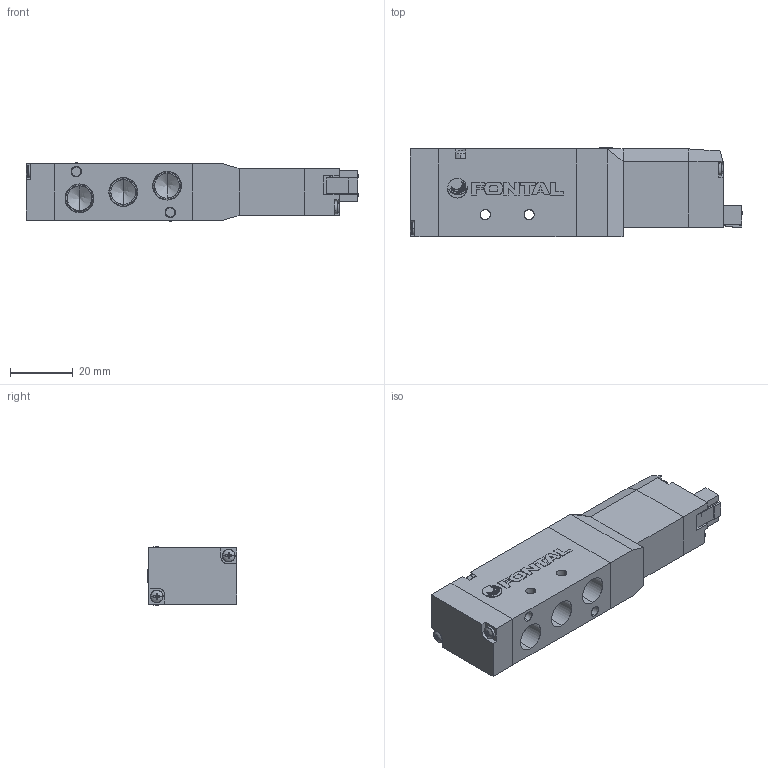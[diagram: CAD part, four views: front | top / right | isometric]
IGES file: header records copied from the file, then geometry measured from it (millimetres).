
Start section: SolidWorks IGES file using analytic representation for surfaces
Global section: file name: D:\Custom\3D繪製\PC\PC13\RCS2413-01-#-SP-#.IGS,1; native system: 5HSolidWorks 2014; preprocessor: SolidWorks 2014; author: Chieh_Lu; date: 150915.183905; units: millimetre
Bounding box: 106.07 x 28.5 x 18.6 mm (x, y, z)
Surface area: 17893.7 mm2 (no closed solid volume)
Topology: 0 solids, 0 shells, 531 faces, 4862 edges, 4840 vertices
Faces by surface type: bspline 345, revolution 186
